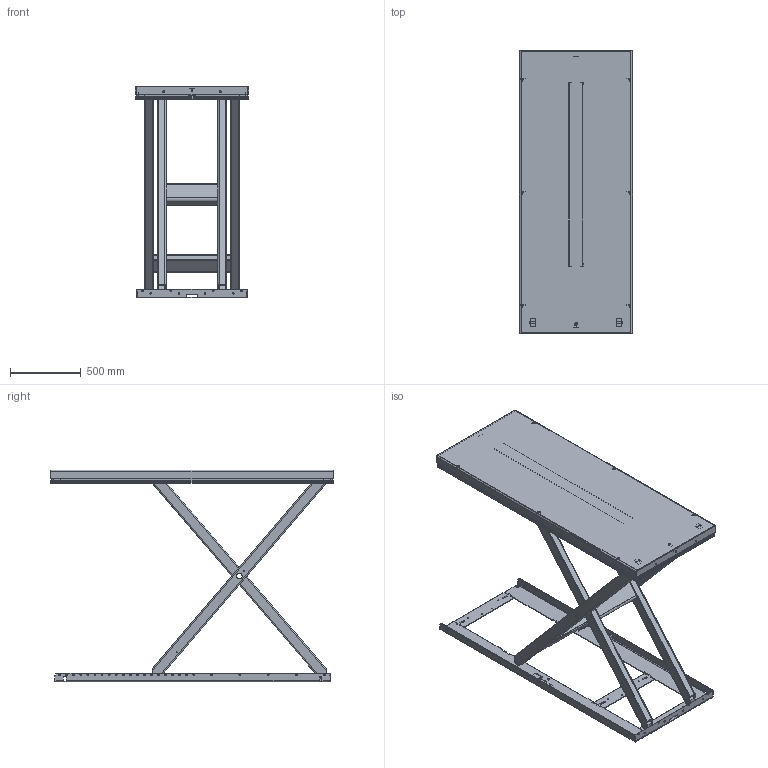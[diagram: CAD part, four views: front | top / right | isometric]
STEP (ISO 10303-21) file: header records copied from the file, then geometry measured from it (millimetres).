
FILE_DESCRIPTION(/* description */ ('TA 1000 (2000x800)'),/* implementation_level */ '2;1');
FILE_NAME(/* name */ 'C:\Autodesk_VaultWork\Ritningar\STP\33335_Elevated.stp',/* time_stamp */ '2016-10-27T14:06:24+02:00',/* author */ ('JOHSO'),/* organization */ (''),/* preprocessor_version */ 'ST-DEVELOPER v16.5',/* originating_system */ 'Autodesk Inventor 2017',/* authorisation */ '');
FILE_SCHEMA (('AUTOMOTIVE_DESIGN { 1 0 10303 214 3 1 1 }'));
Products named in the file (46): 33335_tmp; 33336; 44120; 36231; 601378; 44122; 44870; 612027; 33338; 82092 - 368; 33338-1; 33339; 33339-1; 82147 - 550; 33337; 601392; 42744; 45259; 42394; 80131; 85955; 41333-1300; 601394; 42289-1955; 42289-755; 611843; 43481; 42330; 33990; 33991; 44283; 44280; 44279; Compression-Spring-SF-TF1272-SS1774-04-Lesjofors-STEP; ISO 7089 - 5 - 140 HV; 84253; 44281; 44281-1; ISO 2009 - M4 x 12; 84076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
Assembly tree (84 placements, depth 5):
  33335_tmp
    33336
      44120  x3
      36231
      601378
      45259  x2
      44122
      44870  x2
    612027
      33338
        82092 - 368
        33338-1  x2
      33339
        33339-1  x2
        82147 - 550
    33337
      601392
      42744  x2
      45259  x2
      42394  x2
      80131  x6
      85955
      41333-1300
    601394
      42289-1955  x2
      42289-755  x2
      43481  x6
      42330  x6
      611843  x4
      33990  x2
        33991
        44283
        44280
        44279
        Compression-Spring-SF-TF1272-SS1774-04-Lesjofors-STEP
        ISO 7089 - 5 - 140 HV
        84253
        44281
          44281-1
          ISO 2009 - M4 x 12
        84076
        83928
        44277
        44278
        33992
        ISO 7380 - M4 x 10
      83552  x4
Bounding box: 800 x 2000 x 1500 mm (x, y, z)
Volume: 28453123.4 mm3; surface area: 12408037.6 mm2
Topology: 97 solids, 97 shells, 5016 faces, 13846 edges, 9157 vertices
Faces by surface type: plane 2769, cylinder 1501, bspline 572, cone 114, torus 60
Full cylindrical faces by diameter (mm): 0.474 x2, 1 x4, 3 x4, 3.141 x4, 3.2 x4, 3.242 x4, 4 x14, 4.3 x4, 4.445 x4, 4.9 x2, 5 x4, 5.156 x4, 5.2 x6, 5.3 x4, 5.55 x6, 5.969 x4, 7 x6, 7.4 x8, 7.6 x4, 8 x12, 8.5 x6, 10 x6, 10.5 x10, 11 x2, 11.63 x6, 12 x4, 12.5 x6, 13 x6, 13.835 x1, 14.2 x16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
Entity records: 88064 total; most frequent: CARTESIAN_POINT 22729, ORIENTED_EDGE 13626, DIRECTION 12789, EDGE_CURVE 6812, VERTEX_POINT 4584, LINE 4445, VECTOR 4445, AXIS2_PLACEMENT_3D 4172
